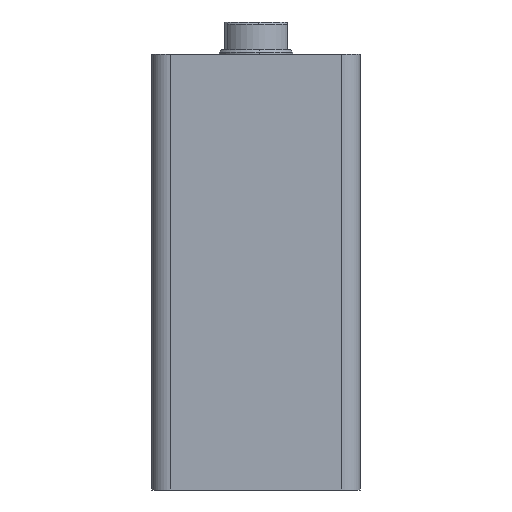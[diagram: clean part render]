
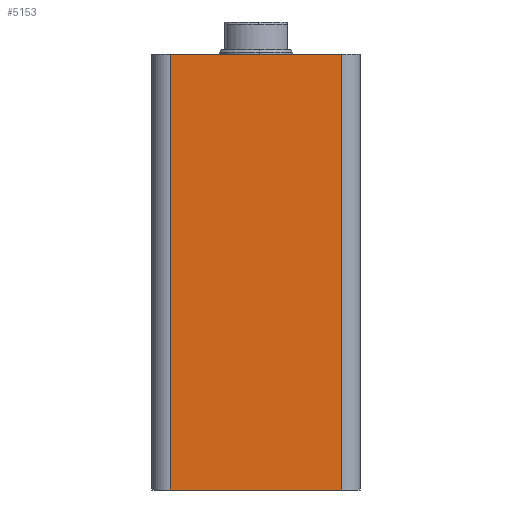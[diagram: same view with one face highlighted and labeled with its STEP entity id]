
A CAD part, front view. The second image highlights one B-rep face of the part: STEP entity #5153.
In plain terms, the highlighted planar face has unit normal (0, -1, 0).
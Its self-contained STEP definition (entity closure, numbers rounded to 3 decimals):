
#61 = CARTESIAN_POINT ( 'NONE',  ( 4., 0., 94. ) ) ;
#659 = CARTESIAN_POINT ( 'NONE',  ( 0., 0., 0. ) ) ;
#1856 = LINE ( 'NONE', #659, #11033 ) ;
#3356 = VECTOR ( 'NONE', #14207, 1000. ) ;
#3408 = VERTEX_POINT ( 'NONE', #9322 ) ;
#3633 = LINE ( 'NONE', #4908, #10488 ) ;
#3946 = DIRECTION ( 'NONE',  ( 0., 1., 0. ) ) ;
#4329 = AXIS2_PLACEMENT_3D ( 'NONE', #13238, #3946, #13069 ) ;
#4491 = CARTESIAN_POINT ( 'NONE',  ( 4., 0., 94. ) ) ;
#4908 = CARTESIAN_POINT ( 'NONE',  ( 41., 0., 94. ) ) ;
#5153 = ADVANCED_FACE ( 'NONE', ( #7869 ), #7950, .F. ) ;
#5281 = EDGE_CURVE ( 'NONE', #15931, #15758, #12291, .T. ) ;
#5802 = DIRECTION ( 'NONE',  ( 1., 0., 0. ) ) ;
#5848 = VERTEX_POINT ( 'NONE', #10384 ) ;
#7869 = FACE_OUTER_BOUND ( 'NONE', #8191, .T. ) ;
#7950 = PLANE ( 'NONE',  #4329 ) ;
#8191 = EDGE_LOOP ( 'NONE', ( #8914, #15919, #8521, #16503 ) ) ;
#8521 = ORIENTED_EDGE ( 'NONE', *, *, #5281, .F. ) ;
#8914 = ORIENTED_EDGE ( 'NONE', *, *, #15241, .T. ) ;
#9018 = LINE ( 'NONE', #61, #3356 ) ;
#9322 = CARTESIAN_POINT ( 'NONE',  ( 41., 0., 0. ) ) ;
#9626 = DIRECTION ( 'NONE',  ( 1., 0., 0. ) ) ;
#10058 = VECTOR ( 'NONE', #5802, 1000. ) ;
#10384 = CARTESIAN_POINT ( 'NONE',  ( 4., 0., 0. ) ) ;
#10488 = VECTOR ( 'NONE', #12680, 1000. ) ;
#10831 = CARTESIAN_POINT ( 'NONE',  ( 41., 0., 94. ) ) ;
#11033 = VECTOR ( 'NONE', #9626, 1000. ) ;
#12291 = LINE ( 'NONE', #15101, #10058 ) ;
#12680 = DIRECTION ( 'NONE',  ( 0., 0., 1. ) ) ;
#13069 = DIRECTION ( 'NONE',  ( 0., 0., 1. ) ) ;
#13238 = CARTESIAN_POINT ( 'NONE',  ( 0., 0., 94. ) ) ;
#14207 = DIRECTION ( 'NONE',  ( 0., 0., -1. ) ) ;
#14301 = EDGE_CURVE ( 'NONE', #3408, #15758, #3633, .T. ) ;
#15101 = CARTESIAN_POINT ( 'NONE',  ( 0., 0., 94. ) ) ;
#15241 = EDGE_CURVE ( 'NONE', #5848, #3408, #1856, .T. ) ;
#15758 = VERTEX_POINT ( 'NONE', #10831 ) ;
#15919 = ORIENTED_EDGE ( 'NONE', *, *, #14301, .T. ) ;
#15931 = VERTEX_POINT ( 'NONE', #4491 ) ;
#16101 = EDGE_CURVE ( 'NONE', #15931, #5848, #9018, .T. ) ;
#16503 = ORIENTED_EDGE ( 'NONE', *, *, #16101, .T. ) ;
